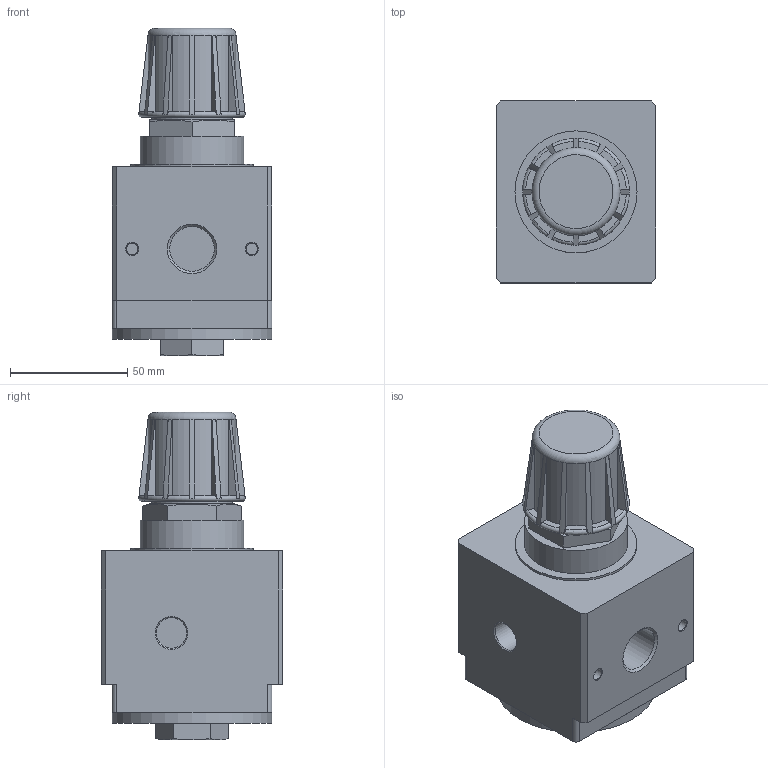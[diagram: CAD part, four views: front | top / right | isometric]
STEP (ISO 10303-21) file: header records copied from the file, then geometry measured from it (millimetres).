
FILE_DESCRIPTION((''),'2;1');
FILE_NAME('U:\AirCom-Produktdokumentation\Druckregler\R105\Zeichnungen\CAD-Aircom\3D\B-R105-04x.stp','2012-02-15T16:22:10',('frank schroers'),(''),'Autodesk Inventor 2008','Autodesk Inventor 2008','');
FILE_SCHEMA(('AUTOMOTIVE_DESIGN { 1 0 10303 214 1 1 1 1 }'));
Length unit declared in the file: millimetre
Products named in the file (1): B-R105-04x
Bounding box: 68 x 77.5 x 139.5 mm (x, y, z)
Volume: 434295.4 mm3; surface area: 45536.1 mm2
Topology: 1 solids, 1 shells, 139 faces, 329 edges, 207 vertices
Faces by surface type: plane 81, cylinder 29, cone 27, torus 2
Full cylindrical faces by diameter (mm): 5 x4, 13 x2, 19 x2, 20 x1, 34.5 x1, 44 x1, 52 x1, 68 x1
Entity records: 3866 total; most frequent: DIRECTION 702, CARTESIAN_POINT 682, ORIENTED_EDGE 604, EDGE_CURVE 302, AXIS2_PLACEMENT_3D 278, VERTEX_POINT 204, EDGE_LOOP 178, VECTOR 146
